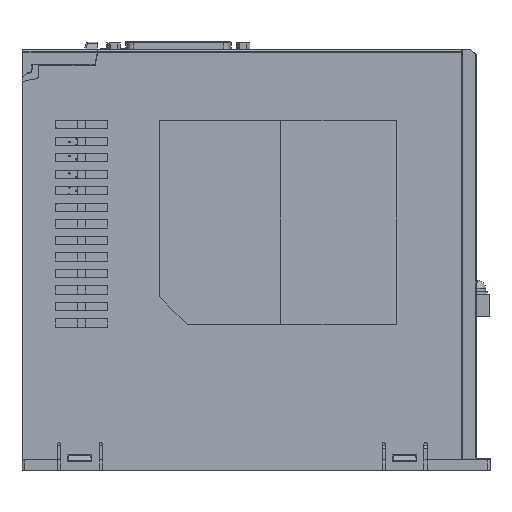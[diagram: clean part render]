
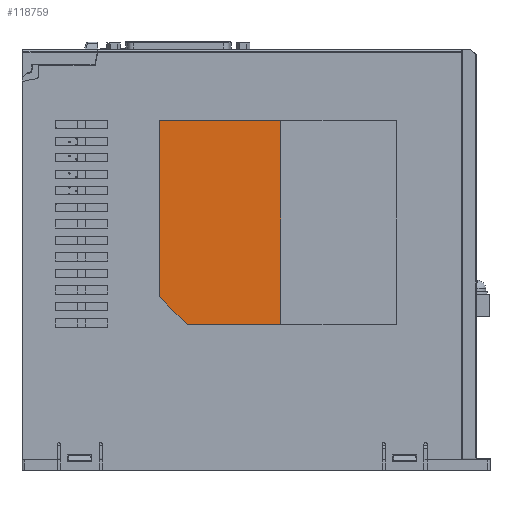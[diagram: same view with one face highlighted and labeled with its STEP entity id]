
A CAD part, left-side view. The second image highlights one B-rep face of the part: STEP entity #118759.
In plain terms, the highlighted planar face has unit normal (-1, 0, 0).
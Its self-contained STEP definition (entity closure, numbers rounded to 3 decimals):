
#33617=DIRECTION('',(0.,0.,-1.));
#33618=VECTOR('',#33617,74.);
#33619=CARTESIAN_POINT('',(-20.2,-14.,127.));
#33620=LINE('',#33619,#33618);
#33621=DIRECTION('',(0.,0.707,0.707));
#33622=VECTOR('',#33621,14.142);
#33623=CARTESIAN_POINT('',(-20.2,20.,53.));
#33624=LINE('',#33623,#33622);
#33625=DIRECTION('',(0.,-1.,0.));
#33626=VECTOR('',#33625,44.);
#33627=CARTESIAN_POINT('',(-20.2,30.,127.));
#33628=LINE('',#33627,#33626);
#33637=DIRECTION('',(0.,-1.,0.));
#33638=VECTOR('',#33637,34.);
#33639=CARTESIAN_POINT('',(-20.2,20.,53.));
#33640=LINE('',#33639,#33638);
#33653=DIRECTION('',(0.,0.,-1.));
#33654=VECTOR('',#33653,64.);
#33655=CARTESIAN_POINT('',(-20.2,30.,127.));
#33656=LINE('',#33655,#33654);
#56058=CARTESIAN_POINT('',(-20.2,-14.,127.));
#56059=VERTEX_POINT('',#56058);
#56062=CARTESIAN_POINT('',(-20.2,-14.,53.));
#56063=VERTEX_POINT('',#56062);
#56064=CARTESIAN_POINT('',(-20.2,20.,53.));
#56065=VERTEX_POINT('',#56064);
#56066=CARTESIAN_POINT('',(-20.2,30.,63.));
#56067=VERTEX_POINT('',#56066);
#56068=CARTESIAN_POINT('',(-20.2,30.,127.));
#56069=VERTEX_POINT('',#56068);
#118744=CARTESIAN_POINT('',(-20.2,8.,90.));
#118745=DIRECTION('',(1.,0.,0.));
#118746=DIRECTION('',(0.,0.,1.));
#118747=AXIS2_PLACEMENT_3D('',#118744,#118745,#118746);
#118748=PLANE('',#118747);
#118749=ORIENTED_EDGE('',*,*,#118723,.T.);
#118751=ORIENTED_EDGE('',*,*,#118750,.F.);
#118753=ORIENTED_EDGE('',*,*,#118752,.T.);
#118755=ORIENTED_EDGE('',*,*,#118754,.F.);
#118756=ORIENTED_EDGE('',*,*,#118703,.T.);
#118757=EDGE_LOOP('',(#118749,#118751,#118753,#118755,#118756));
#118758=FACE_OUTER_BOUND('',#118757,.F.);
#118703=EDGE_CURVE('',#56069,#56059,#33628,.T.);
#118723=EDGE_CURVE('',#56059,#56063,#33620,.T.);
#118750=EDGE_CURVE('',#56065,#56063,#33640,.T.);
#118752=EDGE_CURVE('',#56065,#56067,#33624,.T.);
#118754=EDGE_CURVE('',#56069,#56067,#33656,.T.);
#118759=ADVANCED_FACE('',(#118758),#118748,.F.);
